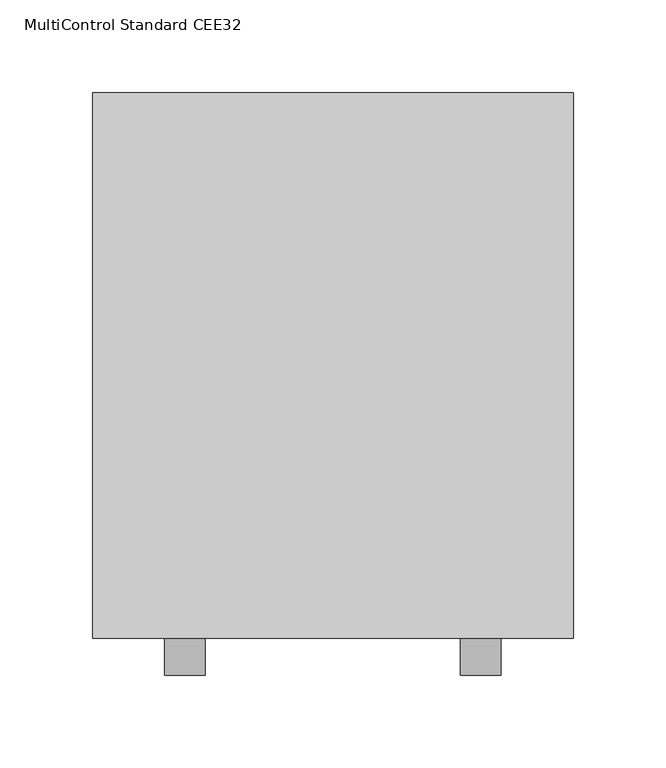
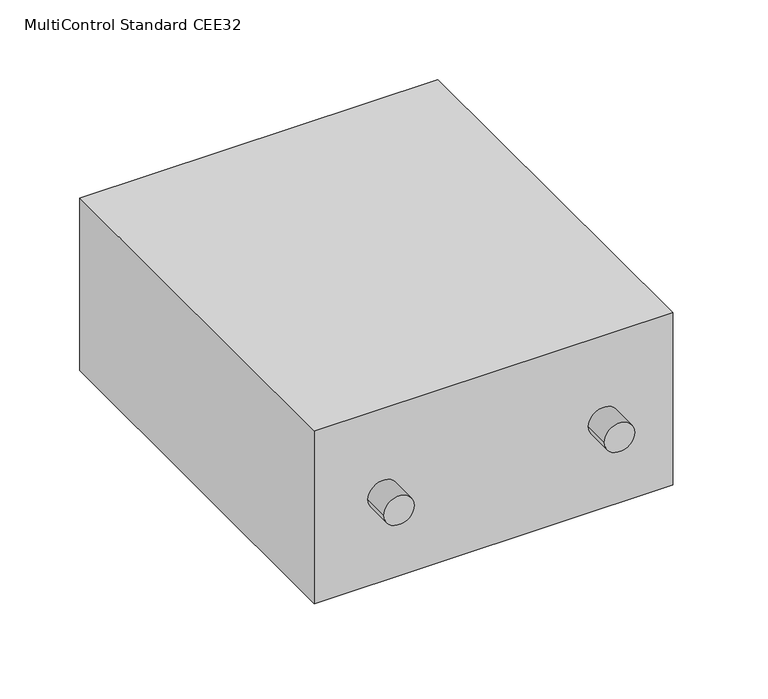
"""IFC4 building model written with IfcOpenShell, lengths in millimetres: proxy geometry, CD_PVC_WPB_Multicontrol box_ACO : MultiControl Standard CEE32."""

from ifc_helpers import new_model, si_unit, frame, origin, place, context, project, spatial, circle_curve, source, transform, mapped, element, save
from ifc_brep_helpers import plane_surface, cylinder_surface, advanced_brep


def multicontrol_standard_cee32_c1f9863e(model_context):
    return source(origin(), model_context, "Body", "AdvancedBrep", [
        advanced_brep(
        [(-91.0, -167.5, 66.25), (-69.0, -167.5, 66.25), (69.0, -167.5, 66.25), (91.0, -167.5, 66.25), (-69.0, -147.5, 66.25), (-91.0, -147.5, 66.25), (130.0, 147.5, 132.5), (-130.0, 147.5, 132.5), (-130.0, -147.5, 132.5), (130.0, -147.5, 132.5), (130.0, 147.5, 0.0), (130.0, -147.5, 0.0), (-130.0, -147.5, 0.0), (-130.0, 147.5, 0.0), (69.0, -147.5, 66.25), (91.0, -147.5, 66.25)],
        [
            (0, 1, circle_curve(frame((-80.0, -167.5, 66.25), z_axis=(0.0, -1.0, 0.0), x_axis=(1.0, 0.0, 0.0)), 11.0)),
            (1, 0, circle_curve(frame((-80.0, -167.5, 66.25), z_axis=(0.0, -1.0, 0.0), x_axis=(1.0, 0.0, 0.0)), 11.0)),
            (2, 3, circle_curve(frame((80.0, -167.5, 66.25), z_axis=(0.0, -1.0, 0.0), x_axis=(1.0, 0.0, 0.0)), 11.0)),
            (3, 2, circle_curve(frame((80.0, -167.5, 66.25), z_axis=(0.0, -1.0, 0.0), x_axis=(1.0, 0.0, 0.0)), 11.0)),
            (1, 4),
            (4, 5, circle_curve(frame((-80.0, -147.5, 66.25), z_axis=(0.0, -1.0, 0.0), x_axis=(1.0, 0.0, 0.0)), 11.0)),
            (5, 0),
            (5, 4, circle_curve(frame((-80.0, -147.5, 66.25), z_axis=(0.0, -1.0, 0.0), x_axis=(1.0, 0.0, 0.0)), 11.0)),
            (6, 7),
            (7, 8),
            (8, 9),
            (9, 6),
            (10, 11),
            (11, 12),
            (12, 13),
            (13, 10),
            (6, 10),
            (13, 7),
            (12, 8),
            (11, 9),
            (14, 15, circle_curve(frame((80.0, -147.5, 66.25), z_axis=(0.0, 1.0, 0.0), x_axis=(1.0, 0.0, 0.0)), 11.0)),
            (15, 14, circle_curve(frame((80.0, -147.5, 66.25), z_axis=(0.0, 1.0, 0.0), x_axis=(1.0, 0.0, 0.0)), 11.0)),
            (3, 15),
            (14, 2),
        ],
        [
            plane_surface(frame((0.0, -167.5, 66.25), z_axis=(0.0, -1.0, 0.0), x_axis=(0.0, 0.0, 1.0))),
            cylinder_surface(frame((-80.0, -147.5, 66.25), z_axis=(0.0, 1.0, 0.0), x_axis=(1.0, 0.0, 0.0)), 11.0),
            plane_surface(frame((-130.0, 147.5, 132.5), z_axis=(0.0, 0.0, 1.0), x_axis=(-1.0, 0.0, 0.0))),
            plane_surface(frame((-130.0, 147.5, 0.0), z_axis=(0.0, 0.0, -1.0), x_axis=(1.0, 0.0, 0.0))),
            plane_surface(frame((130.0, 147.5, 132.5), z_axis=(0.0, 1.0, 0.0), x_axis=(0.0, 0.0, -1.0))),
            plane_surface(frame((-130.0, 147.5, 132.5), z_axis=(-1.0, 0.0, 0.0), x_axis=(0.0, 0.0, -1.0))),
            plane_surface(frame((-130.0, -147.5, 132.5), z_axis=(0.0, -1.0, 0.0), x_axis=(0.0, 0.0, -1.0))),
            plane_surface(frame((130.0, -147.5, 132.5), z_axis=(1.0, 0.0, 0.0), x_axis=(0.0, 0.0, -1.0))),
            cylinder_surface(frame((80.0, -147.5, 66.25), z_axis=(0.0, 1.0, 0.0), x_axis=(1.0, 0.0, 0.0)), 11.0),
        ],
        [
            (0, [[1, 2]]),
            (0, [[3, 4]]),
            (1, [[-2, 5, 6, 7]]),
            (1, [[-1, -7, 8, -5]]),
            (2, [[9, 10, 11, 12]]),
            (3, [[13, 14, 15, 16]]),
            (4, [[-9, 17, -16, 18]]),
            (5, [[-10, -18, -15, 19]]),
            (6, [[-11, -19, -14, 20], [-6, -8], [21, 22]]),
            (7, [[-12, -20, -13, -17]]),
            (8, [[-4, 23, -21, 24]]),
            (8, [[-3, -24, -22, -23]]),
        ],
    ),
    ])


if __name__ == "__main__":
    model = new_model("IFC4")
    model_context = context("Model", 3, world=origin())
    ifc_project = project(units=[si_unit("LENGTHUNIT", "METRE", prefix="MILLI")], contexts=[model_context])
    site = spatial("IfcSite", under=ifc_project)
    building = spatial("IfcBuilding", under=site)
    placement = place(None, origin())
    multicontrol_standard_cee32_shape = multicontrol_standard_cee32_c1f9863e(model_context)
    element("IfcBuildingElementProxy", 1, Name="CD_PVC_WPB_Multicontrol box_ACO : MultiControl Standard CEE32", ObjectType="CD_PVC_WPB_Multicontrol box_ACO : MultiControl Standard CEE32", at=placement, inside=building, context=model_context, shape_type="MappedRepresentation", body=[
        mapped(multicontrol_standard_cee32_shape, transform((0.0, 0.0, 0.0), x_axis=(1.0, 0.0, 0.0), y_axis=(0.0, 1.0, 0.0), z_axis=(0.0, 0.0, 1.0))),
    ])
    save(model, "model.ifc")
